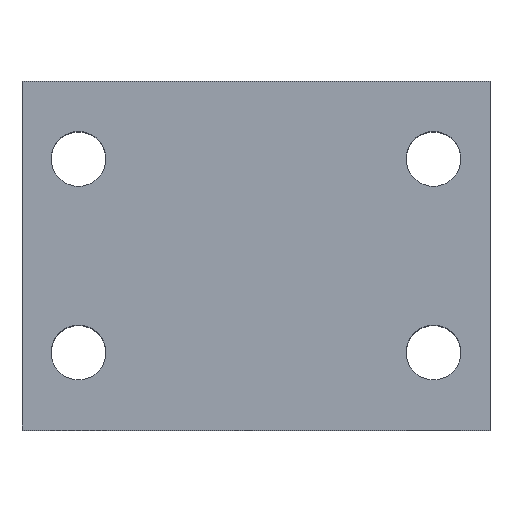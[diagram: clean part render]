
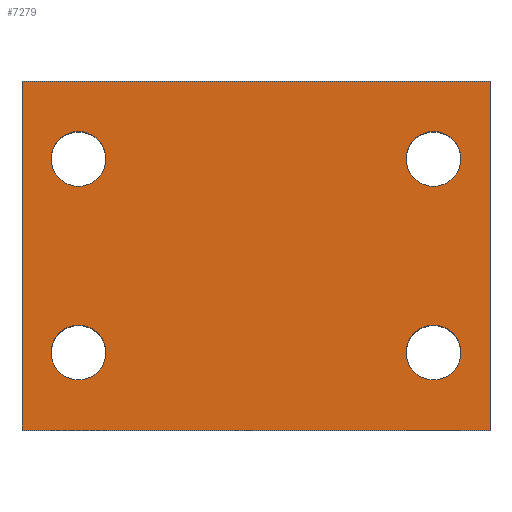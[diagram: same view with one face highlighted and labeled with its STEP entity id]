
A CAD part, top view. The second image highlights one B-rep face of the part: STEP entity #7279.
In plain terms, the highlighted planar face has unit normal (0, 0, 1).
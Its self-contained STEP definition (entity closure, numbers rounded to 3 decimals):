
#84 = CARTESIAN_POINT ( 'NONE',  ( -72.5, 108., 50. ) ) ;
#227 = DIRECTION ( 'NONE',  ( 0., 0., -1. ) ) ;
#890 = DIRECTION ( 'NONE',  ( -1., 0., 0. ) ) ;
#907 = AXIS2_PLACEMENT_3D ( 'NONE', #4298, #13357, #5648 ) ;
#992 = CARTESIAN_POINT ( 'NONE',  ( 55., 84., 50. ) ) ;
#1219 = DIRECTION ( 'NONE',  ( -1., 0., 0. ) ) ;
#1333 = DIRECTION ( 'NONE',  ( 0., 0., -1. ) ) ;
#1698 = AXIS2_PLACEMENT_3D ( 'NONE', #8177, #227, #9442 ) ;
#1811 = ORIENTED_EDGE ( 'NONE', *, *, #3756, .T. ) ;
#1995 = CARTESIAN_POINT ( 'NONE',  ( 63.5, 84., 50. ) ) ;
#2391 = DIRECTION ( 'NONE',  ( -1., 0., 0. ) ) ;
#2424 = CARTESIAN_POINT ( 'NONE',  ( -72.5, 108., 50. ) ) ;
#2625 = DIRECTION ( 'NONE',  ( 1., 0., 0. ) ) ;
#2861 = FACE_BOUND ( 'NONE', #3608, .T. ) ;
#3125 = CARTESIAN_POINT ( 'NONE',  ( -55., 84., 50. ) ) ;
#3252 = EDGE_LOOP ( 'NONE', ( #13534, #11140 ) ) ;
#3608 = EDGE_LOOP ( 'NONE', ( #7772, #12131 ) ) ;
#3756 = EDGE_CURVE ( 'NONE', #10625, #5134, #6863, .T. ) ;
#3886 = CIRCLE ( 'NONE', #907, 8.5 ) ;
#4026 = CARTESIAN_POINT ( 'NONE',  ( -46.5, 24., 50. ) ) ;
#4250 = PLANE ( 'NONE',  #1698 ) ;
#4298 = CARTESIAN_POINT ( 'NONE',  ( 55., 84., 50. ) ) ;
#4366 = EDGE_CURVE ( 'NONE', #10625, #8772, #8843, .T. ) ;
#4461 = DIRECTION ( 'NONE',  ( -1., 0., 0. ) ) ;
#5003 = VECTOR ( 'NONE', #9309, 1000. ) ;
#5006 = EDGE_CURVE ( 'NONE', #6086, #13185, #10861, .T. ) ;
#5105 = VERTEX_POINT ( 'NONE', #10778 ) ;
#5134 = VERTEX_POINT ( 'NONE', #9559 ) ;
#5523 = ORIENTED_EDGE ( 'NONE', *, *, #7598, .T. ) ;
#5648 = DIRECTION ( 'NONE',  ( -1., 0., 0. ) ) ;
#5972 = AXIS2_PLACEMENT_3D ( 'NONE', #9176, #1333, #10505 ) ;
#6086 = VERTEX_POINT ( 'NONE', #11829 ) ;
#6451 = ORIENTED_EDGE ( 'NONE', *, *, #4366, .F. ) ;
#6467 = CARTESIAN_POINT ( 'NONE',  ( -55., 24., 50. ) ) ;
#6566 = CARTESIAN_POINT ( 'NONE',  ( 72.5, 0., 50. ) ) ;
#6660 = ORIENTED_EDGE ( 'NONE', *, *, #14494, .T. ) ;
#6731 = EDGE_CURVE ( 'NONE', #8772, #7566, #17009, .T. ) ;
#6743 = CARTESIAN_POINT ( 'NONE',  ( -55., 84., 50. ) ) ;
#6800 = FACE_BOUND ( 'NONE', #12890, .T. ) ;
#6863 = LINE ( 'NONE', #15622, #10266 ) ;
#7279 = ADVANCED_FACE ( 'NONE', ( #6800, #9788, #2861, #16359, #13056 ), #4250, .F. ) ;
#7566 = VERTEX_POINT ( 'NONE', #6566 ) ;
#7598 = EDGE_CURVE ( 'NONE', #5134, #7566, #16379, .T. ) ;
#7652 = CIRCLE ( 'NONE', #8562, 8.5 ) ;
#7742 = DIRECTION ( 'NONE',  ( -1., 0., 0. ) ) ;
#7772 = ORIENTED_EDGE ( 'NONE', *, *, #11893, .T. ) ;
#8004 = DIRECTION ( 'NONE',  ( -1., 0., 0. ) ) ;
#8177 = CARTESIAN_POINT ( 'NONE',  ( -72.5, 108., 50. ) ) ;
#8347 = CARTESIAN_POINT ( 'NONE',  ( 72.5, 108., 50. ) ) ;
#8562 = AXIS2_PLACEMENT_3D ( 'NONE', #3125, #12209, #4461 ) ;
#8631 = VERTEX_POINT ( 'NONE', #4026 ) ;
#8772 = VERTEX_POINT ( 'NONE', #8347 ) ;
#8779 = DIRECTION ( 'NONE',  ( 0., 0., -1. ) ) ;
#8843 = LINE ( 'NONE', #84, #5003 ) ;
#8920 = ORIENTED_EDGE ( 'NONE', *, *, #5006, .T. ) ;
#8970 = EDGE_CURVE ( 'NONE', #8631, #9207, #15285, .T. ) ;
#9075 = DIRECTION ( 'NONE',  ( 0., 0., -1. ) ) ;
#9111 = DIRECTION ( 'NONE',  ( 0., -1., 0. ) ) ;
#9165 = AXIS2_PLACEMENT_3D ( 'NONE', #16962, #9075, #1219 ) ;
#9176 = CARTESIAN_POINT ( 'NONE',  ( 55., 24., 50. ) ) ;
#9207 = VERTEX_POINT ( 'NONE', #9896 ) ;
#9309 = DIRECTION ( 'NONE',  ( 1., 0., 0. ) ) ;
#9442 = DIRECTION ( 'NONE',  ( -1., 0., 0. ) ) ;
#9445 = AXIS2_PLACEMENT_3D ( 'NONE', #6743, #15797, #8004 ) ;
#9559 = CARTESIAN_POINT ( 'NONE',  ( -72.5, 0., 50. ) ) ;
#9603 = ORIENTED_EDGE ( 'NONE', *, *, #10162, .T. ) ;
#9626 = EDGE_CURVE ( 'NONE', #16285, #11195, #3886, .T. ) ;
#9675 = CARTESIAN_POINT ( 'NONE',  ( 46.5, 24., 50. ) ) ;
#9788 = FACE_BOUND ( 'NONE', #3252, .T. ) ;
#9809 = VECTOR ( 'NONE', #2625, 1000. ) ;
#9885 = CIRCLE ( 'NONE', #10159, 8.5 ) ;
#9896 = CARTESIAN_POINT ( 'NONE',  ( -63.5, 24., 50. ) ) ;
#9977 = EDGE_LOOP ( 'NONE', ( #5523, #15475, #6451, #1811 ) ) ;
#10000 = VECTOR ( 'NONE', #15228, 1000. ) ;
#10159 = AXIS2_PLACEMENT_3D ( 'NONE', #16624, #8779, #890 ) ;
#10162 = EDGE_CURVE ( 'NONE', #11195, #16285, #11162, .T. ) ;
#10171 = DIRECTION ( 'NONE',  ( 0., 0., -1. ) ) ;
#10266 = VECTOR ( 'NONE', #9111, 1000. ) ;
#10293 = EDGE_CURVE ( 'NONE', #5105, #11737, #12555, .T. ) ;
#10505 = DIRECTION ( 'NONE',  ( -1., 0., 0. ) ) ;
#10625 = VERTEX_POINT ( 'NONE', #2424 ) ;
#10664 = CIRCLE ( 'NONE', #9165, 8.5 ) ;
#10778 = CARTESIAN_POINT ( 'NONE',  ( 63.5, 24., 50. ) ) ;
#10861 = CIRCLE ( 'NONE', #9445, 8.5 ) ;
#11140 = ORIENTED_EDGE ( 'NONE', *, *, #8970, .T. ) ;
#11162 = CIRCLE ( 'NONE', #16759, 8.5 ) ;
#11195 = VERTEX_POINT ( 'NONE', #14479 ) ;
#11731 = CARTESIAN_POINT ( 'NONE',  ( -72.5, 0., 50. ) ) ;
#11737 = VERTEX_POINT ( 'NONE', #9675 ) ;
#11829 = CARTESIAN_POINT ( 'NONE',  ( -46.5, 84., 50. ) ) ;
#11893 = EDGE_CURVE ( 'NONE', #11737, #5105, #9885, .T. ) ;
#12131 = ORIENTED_EDGE ( 'NONE', *, *, #10293, .T. ) ;
#12209 = DIRECTION ( 'NONE',  ( 0., 0., -1. ) ) ;
#12439 = ORIENTED_EDGE ( 'NONE', *, *, #9626, .T. ) ;
#12555 = CIRCLE ( 'NONE', #5972, 8.5 ) ;
#12890 = EDGE_LOOP ( 'NONE', ( #6660, #8920 ) ) ;
#13056 = FACE_OUTER_BOUND ( 'NONE', #9977, .T. ) ;
#13185 = VERTEX_POINT ( 'NONE', #16798 ) ;
#13357 = DIRECTION ( 'NONE',  ( 0., 0., -1. ) ) ;
#13534 = ORIENTED_EDGE ( 'NONE', *, *, #13630, .T. ) ;
#13630 = EDGE_CURVE ( 'NONE', #9207, #8631, #10664, .T. ) ;
#14410 = EDGE_LOOP ( 'NONE', ( #9603, #12439 ) ) ;
#14479 = CARTESIAN_POINT ( 'NONE',  ( 46.5, 84., 50. ) ) ;
#14494 = EDGE_CURVE ( 'NONE', #13185, #6086, #7652, .T. ) ;
#15228 = DIRECTION ( 'NONE',  ( 0., -1., 0. ) ) ;
#15285 = CIRCLE ( 'NONE', #15606, 8.5 ) ;
#15475 = ORIENTED_EDGE ( 'NONE', *, *, #6731, .F. ) ;
#15489 = DIRECTION ( 'NONE',  ( 0., 0., -1. ) ) ;
#15606 = AXIS2_PLACEMENT_3D ( 'NONE', #6467, #15489, #7742 ) ;
#15622 = CARTESIAN_POINT ( 'NONE',  ( -72.5, 108., 50. ) ) ;
#15797 = DIRECTION ( 'NONE',  ( 0., 0., -1. ) ) ;
#16285 = VERTEX_POINT ( 'NONE', #1995 ) ;
#16359 = FACE_BOUND ( 'NONE', #14410, .T. ) ;
#16379 = LINE ( 'NONE', #11731, #9809 ) ;
#16595 = CARTESIAN_POINT ( 'NONE',  ( 72.5, 108., 50. ) ) ;
#16624 = CARTESIAN_POINT ( 'NONE',  ( 55., 24., 50. ) ) ;
#16759 = AXIS2_PLACEMENT_3D ( 'NONE', #992, #10171, #2391 ) ;
#16798 = CARTESIAN_POINT ( 'NONE',  ( -63.5, 84., 50. ) ) ;
#16962 = CARTESIAN_POINT ( 'NONE',  ( -55., 24., 50. ) ) ;
#17009 = LINE ( 'NONE', #16595, #10000 ) ;
